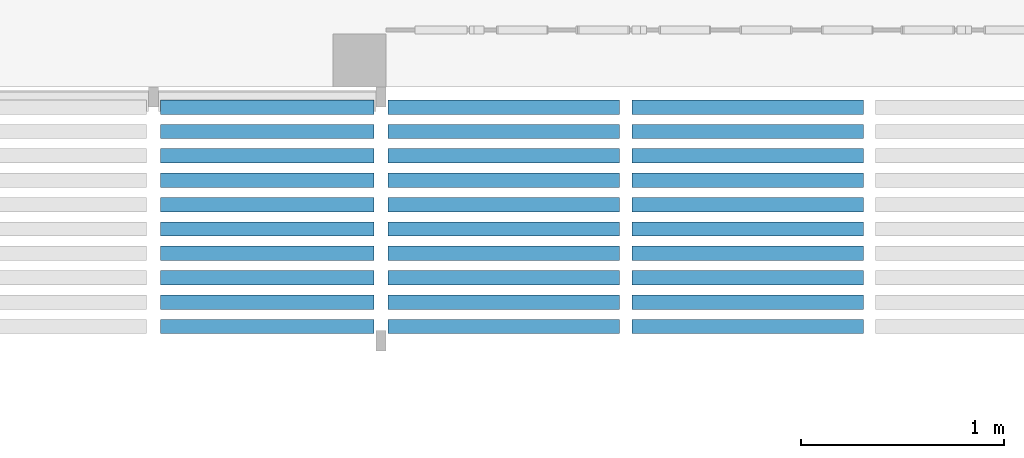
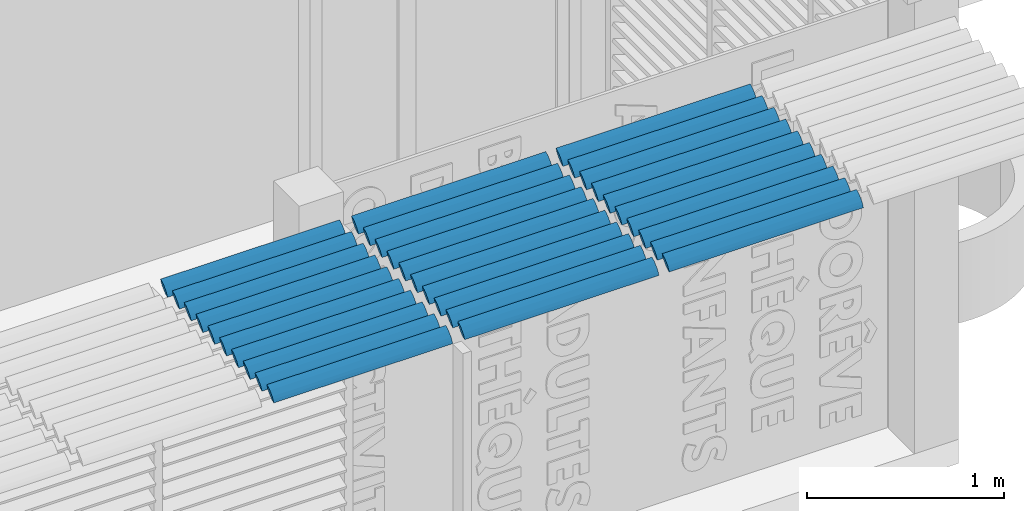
# One storey, part 34 of 64: 3 discrete accessories.
"""IFC2X3 building model written with IfcOpenShell, lengths in metres."""

from ifc_helpers import new_model, entity, si_unit, converted_unit, derived_unit, direction, frame, origin, place, context, subcontext, project, spatial, polyline, outline, extrude, source, transform, mapped, material, type_object, type_shapes, element, save


model = new_model("IFC2X3")

# Units and contexts
model_context = context("Model", 3, precision=1e-05, world=origin(), true_north=direction((6.123031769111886e-17, 1.0)))
body_context = subcontext(model_context, "Body", "Model", "MODEL_VIEW")
ifc_project = project(units=[si_unit("LENGTHUNIT", "METRE"), si_unit("AREAUNIT", "SQUARE_METRE"), si_unit("VOLUMEUNIT", "CUBIC_METRE"), converted_unit("PLANEANGLEUNIT", "DEGREE", entity("IfcRatioMeasure", 0.017453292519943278), si_unit("PLANEANGLEUNIT", "RADIAN"), dimensions=[0, 0, 0, 0, 0, 0, 0]), si_unit("MASSUNIT", "GRAM", prefix="KILO"), derived_unit("MASSDENSITYUNIT", [(si_unit("MASSUNIT", "GRAM", prefix="KILO"), 1), (si_unit("LENGTHUNIT", "METRE"), -3)]), derived_unit("MOMENTOFINERTIAUNIT", [(si_unit("LENGTHUNIT", "METRE"), 4)]), si_unit("TIMEUNIT", "SECOND"), si_unit("FREQUENCYUNIT", "HERTZ"), si_unit("THERMODYNAMICTEMPERATUREUNIT", "DEGREE_CELSIUS"), derived_unit("THERMALTRANSMITTANCEUNIT", [(si_unit("MASSUNIT", "GRAM", prefix="KILO"), 1), (si_unit("THERMODYNAMICTEMPERATUREUNIT", "KELVIN"), -1), (si_unit("TIMEUNIT", "SECOND"), -3)]), derived_unit("THERMALCONDUCTANCEUNIT", [(si_unit("MASSUNIT", "GRAM", prefix="KILO"), 1), (si_unit("LENGTHUNIT", "METRE"), 1), (si_unit("THERMODYNAMICTEMPERATUREUNIT", "KELVIN"), -1), (si_unit("TIMEUNIT", "SECOND"), -3)]), derived_unit("VOLUMETRICFLOWRATEUNIT", [(si_unit("LENGTHUNIT", "METRE"), 3), (si_unit("TIMEUNIT", "SECOND"), -1)]), derived_unit("MASSFLOWRATEUNIT", [(si_unit("MASSUNIT", "GRAM", prefix="KILO"), 1), (si_unit("TIMEUNIT", "SECOND"), -1)]), derived_unit("ROTATIONALFREQUENCYUNIT", [(si_unit("TIMEUNIT", "SECOND"), -1)]), si_unit("ELECTRICCURRENTUNIT", "AMPERE"), si_unit("ELECTRICVOLTAGEUNIT", "VOLT"), si_unit("POWERUNIT", "WATT"), si_unit("FORCEUNIT", "NEWTON", prefix="KILO"), si_unit("ILLUMINANCEUNIT", "LUX"), si_unit("LUMINOUSFLUXUNIT", "LUMEN"), si_unit("LUMINOUSINTENSITYUNIT", "CANDELA"), derived_unit("USERDEFINED", [(si_unit("MASSUNIT", "GRAM", prefix="KILO"), -1), (si_unit("LENGTHUNIT", "METRE"), -2), (si_unit("TIMEUNIT", "SECOND"), 3), (si_unit("LUMINOUSFLUXUNIT", "LUMEN"), 1)]), derived_unit("USERDEFINED", [(si_unit("MASSUNIT", "GRAM", prefix="KILO"), 1), (si_unit("LENGTHUNIT", "METRE"), 3), (si_unit("TIMEUNIT", "SECOND"), -3), (si_unit("ELECTRICCURRENTUNIT", "AMPERE"), -2)]), derived_unit("USERDEFINED", [(si_unit("LENGTHUNIT", "METRE"), 2), (si_unit("TIMEUNIT", "SECOND"), -2)]), derived_unit("SOUNDPOWERUNIT", [(si_unit("MASSUNIT", "GRAM", prefix="KILO"), 1), (si_unit("LENGTHUNIT", "METRE"), 2), (si_unit("TIMEUNIT", "SECOND"), -3)]), derived_unit("SOUNDPRESSUREUNIT", [(si_unit("MASSUNIT", "GRAM", prefix="KILO"), 1), (si_unit("LENGTHUNIT", "METRE"), -1), (si_unit("TIMEUNIT", "SECOND"), -2)]), derived_unit("LINEARVELOCITYUNIT", [(si_unit("LENGTHUNIT", "METRE"), 1), (si_unit("TIMEUNIT", "SECOND"), -1)]), si_unit("PRESSUREUNIT", "PASCAL"), derived_unit("USERDEFINED", [(si_unit("LENGTHUNIT", "METRE"), -2), (si_unit("MASSUNIT", "GRAM", prefix="KILO"), 1), (si_unit("TIMEUNIT", "SECOND"), -2)]), derived_unit("LINEARFORCEUNIT", [(si_unit("MASSUNIT", "GRAM", prefix="KILO"), 1), (si_unit("LENGTHUNIT", "METRE"), 1), (si_unit("TIMEUNIT", "SECOND"), -2), (si_unit("LENGTHUNIT", "METRE"), -1)]), derived_unit("PLANARFORCEUNIT", [(si_unit("MASSUNIT", "GRAM", prefix="KILO"), 1), (si_unit("LENGTHUNIT", "METRE"), 1), (si_unit("TIMEUNIT", "SECOND"), -2), (si_unit("LENGTHUNIT", "METRE"), -2)]), derived_unit("SPECIFICHEATCAPACITYUNIT", [(si_unit("LENGTHUNIT", "METRE"), 2), (si_unit("TIMEUNIT", "SECOND"), -2), (si_unit("THERMODYNAMICTEMPERATUREUNIT", "KELVIN"), -1)]), derived_unit("VAPORPERMEABILITYUNIT", [(si_unit("TIMEUNIT", "SECOND"), 1), (si_unit("LENGTHUNIT", "METRE"), -1)]), derived_unit("DYNAMICVISCOSITYUNIT", [(si_unit("MASSUNIT", "GRAM", prefix="KILO"), 1), (si_unit("LENGTHUNIT", "METRE"), -1), (si_unit("TIMEUNIT", "SECOND"), -1)]), derived_unit("THERMALEXPANSIONCOEFFICIENTUNIT", [(si_unit("THERMODYNAMICTEMPERATUREUNIT", "KELVIN"), -1)])], contexts=[model_context])

# Site, building, storey
site_placement = place(None, origin())
site = spatial("IfcSite", under=ifc_project, at=site_placement, Name="Default", CompositionType="ELEMENT")
building_placement = place(site_placement, origin())
building = spatial("IfcBuilding", under=site, at=building_placement, CompositionType="ELEMENT")
storey_placement = place(building_placement, origin())
storey = spatial("IfcBuildingStorey", under=building, at=storey_placement, Name="REZ-DE-CHAUSSÉE", CompositionType="ELEMENT", Elevation=0.0)

# Discrete accessories
ifc_material = material(Name="Bois - Chêne clair")
discrete_accessory_type_1 = type_object("IfcDiscreteAccessoryType", Name="Symb-0003", material=ifc_material)
shared_shape_1 = source(origin(), body_context, "Body", "SweptSolid", [
    extrude(outline(polyline([(-0.046423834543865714, -0.018569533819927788), (-0.028473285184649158, -0.0185695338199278), (-0.01176070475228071, -0.01547461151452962), (0.019188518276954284, -0.0030949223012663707), (0.033425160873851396, 0.00618984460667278), (0.04642383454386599, 0.01856953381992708), (0.028473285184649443, 0.018569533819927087), (0.011760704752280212, 0.015474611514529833), (-0.019188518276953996, 0.0030949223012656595), (-0.0334251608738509, -0.006189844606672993), (-0.046423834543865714, -0.018569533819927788)])), frame((122.18074673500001, 4.0672094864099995, 2.6500000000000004), z_axis=(1.0, 0.0, 0.0), x_axis=(0.0, 0.9191450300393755, 0.3939192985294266)), (0.0, 0.0, 1.0), 1.139999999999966),
    extrude(outline(polyline([(-0.04642383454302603, -0.018569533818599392), (-0.02847328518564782, -0.018569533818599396), (-0.011760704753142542, -0.015474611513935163), (0.019188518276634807, -0.0030949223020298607), (0.03342516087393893, 0.0061898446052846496), (0.04642383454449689, 0.018569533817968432), (0.028473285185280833, 0.018569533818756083), (0.011760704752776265, 0.015474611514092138), (-0.019188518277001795, 0.0030949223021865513), (-0.033425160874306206, -0.0061898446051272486), (-0.04642383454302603, -0.018569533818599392)])), frame((122.18074673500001, 3.947209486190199, 2.6500000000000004), z_axis=(1.0, 0.0, 0.0), x_axis=(0.0, 0.9191450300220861, 0.39391929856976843)), (0.0, 0.0, 1.0), 1.1399999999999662),
    extrude(outline(polyline([(-0.04642383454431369, -0.01856953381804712), (-0.028473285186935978, -0.01856953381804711), (-0.011760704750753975, -0.015474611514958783), (0.019188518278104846, -0.003094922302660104), (0.033425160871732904, 0.00618984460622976), (0.046423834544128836, 0.018569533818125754), (0.02847328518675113, 0.01856953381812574), (0.011760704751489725, 0.015474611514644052), (-0.01918851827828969, 0.0030949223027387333), (-0.033425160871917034, -0.006189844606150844), (-0.04642383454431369, -0.01856953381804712)])), frame((122.18074673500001, 3.8272094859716, 2.6500000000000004), z_axis=(1.0, 0.0, 0.0), x_axis=(0.0, 0.9191450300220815, 0.3939192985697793)), (0.0, 0.0, 1.0), 1.1399999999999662),
    extrude(outline(polyline([(-0.04642383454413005, -0.01856953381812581), (-0.028473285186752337, -0.0185695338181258), (-0.01176070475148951, -0.01547461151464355), (0.01918851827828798, -0.0030949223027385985), (0.03342516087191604, 0.006189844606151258), (0.04642383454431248, 0.018569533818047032), (0.028473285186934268, 0.01856953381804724), (0.011760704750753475, 0.015474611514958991), (-0.019188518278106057, 0.0030949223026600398), (-0.033425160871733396, -0.006189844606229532), (-0.04642383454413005, -0.01856953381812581)])), frame((122.18074673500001, 3.7072094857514, 2.6500000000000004), z_axis=(1.0, 0.0, 0.0), x_axis=(0.0, 0.9191450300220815, 0.3939192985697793)), (0.0, 0.0, 1.0), 1.1399999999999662),
    extrude(outline(polyline([(-0.04642383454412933, -0.018569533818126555), (-0.028473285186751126, -0.018569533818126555), (-0.01176070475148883, -0.015474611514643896), (0.019188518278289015, -0.0030949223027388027), (0.033425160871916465, 0.006189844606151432), (0.04642383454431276, 0.018569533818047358), (0.02847328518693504, 0.018569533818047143), (0.011760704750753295, 0.015474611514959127), (-0.019188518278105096, 0.003094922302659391), (-0.03342516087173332, -0.00618984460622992), (-0.04642383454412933, -0.018569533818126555)])), frame((122.18074673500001, 3.5872094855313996, 2.6500000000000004), z_axis=(1.0, 0.0, 0.0), x_axis=(0.0, 0.9191450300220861, 0.39391929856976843)), (0.0, 0.0, 1.0), 1.1399999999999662),
    extrude(outline(polyline([(-0.046423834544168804, -0.018569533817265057), (-0.02847328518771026, -0.018569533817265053), (-0.011760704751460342, -0.015474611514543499), (0.019188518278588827, -0.003094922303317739), (0.03342516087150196, 0.006189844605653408), (0.04642383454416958, 0.01856953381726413), (0.02847328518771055, 0.018569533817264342), (0.01176070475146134, 0.01547461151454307), (-0.019188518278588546, 0.0030949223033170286), (-0.03342516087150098, -0.006189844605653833), (-0.046423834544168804, -0.018569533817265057)])), frame((122.18074673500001, 3.4672094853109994, 2.6500000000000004), z_axis=(1.0, 0.0, 0.0), x_axis=(0.0, 0.9191450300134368, 0.3939192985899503)), (0.0, 0.0, 1.0), 1.139999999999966),
    extrude(outline(polyline([(-0.046423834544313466, -0.018569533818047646), (-0.028473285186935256, -0.018569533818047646), (-0.011760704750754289, -0.015474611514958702), (0.019188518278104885, -0.003094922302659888), (0.03342516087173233, 0.006189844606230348), (0.04642383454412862, 0.018569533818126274), (0.028473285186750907, 0.01856953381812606), (0.01176070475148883, 0.015474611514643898), (-0.01918851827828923, 0.0030949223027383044), (-0.03342516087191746, -0.006189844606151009), (-0.046423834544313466, -0.018569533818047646)])), frame((122.18074673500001, 3.3472094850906, 2.6500000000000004), z_axis=(1.0, 0.0, 0.0), x_axis=(0.0, 0.9191450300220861, 0.39391929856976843)), (0.0, 0.0, 1.0), 1.1399999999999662),
    extrude(outline(polyline([(-0.04642383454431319, -0.018569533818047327), (-0.02847328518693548, -0.018569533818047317), (-0.011760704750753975, -0.015474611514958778), (0.019188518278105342, -0.0030949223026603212), (0.033425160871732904, 0.006189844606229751), (0.046423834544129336, 0.01856953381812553), (0.02847328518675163, 0.018569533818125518), (0.011760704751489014, 0.015474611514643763), (-0.019188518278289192, 0.0030949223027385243), (-0.033425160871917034, -0.006189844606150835), (-0.04642383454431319, -0.018569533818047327)])), frame((122.18074673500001, 3.2272094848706, 2.6500000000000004), z_axis=(1.0, 0.0, 0.0), x_axis=(0.0, 0.9191450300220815, 0.3939192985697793)), (0.0, 0.0, 1.0), 1.1399999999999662),
    extrude(outline(polyline([(-0.04642383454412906, -0.018569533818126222), (-0.028473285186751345, -0.01856953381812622), (-0.011760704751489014, -0.015474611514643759), (0.01918851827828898, -0.00309492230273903), (0.033425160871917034, 0.006189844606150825), (0.046423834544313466, 0.018569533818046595), (0.028473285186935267, 0.018569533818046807), (0.011760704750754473, 0.015474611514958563), (-0.019188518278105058, 0.003094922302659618), (-0.033425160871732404, -0.006189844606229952), (-0.04642383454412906, -0.018569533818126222)])), frame((122.18074673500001, 3.1072094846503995, 2.6500000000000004), z_axis=(1.0, 0.0, 0.0), x_axis=(0.0, 0.9191450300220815, 0.3939192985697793)), (0.0, 0.0, 1.0), 1.1399999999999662),
    extrude(outline(polyline([(-0.04642383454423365, -0.01856953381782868), (-0.028473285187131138, -0.01856953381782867), (-0.011760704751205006, -0.015474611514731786), (0.01918851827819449, -0.003094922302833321), (0.03342516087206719, 0.0061898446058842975), (0.046423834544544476, 0.01856953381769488), (0.028473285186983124, 0.018569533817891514), (0.011760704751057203, 0.01547461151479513), (-0.01918851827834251, 0.0030949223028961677), (-0.033425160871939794, -0.006189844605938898), (-0.04642383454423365, -0.01856953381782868)])), frame((122.18074673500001, 2.9872094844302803, 2.6500000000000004), z_axis=(1.0, 0.0, 0.0), x_axis=(0.0, 0.9191450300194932, 0.3939192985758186)), (0.0, 0.0, 1.0), 1.1399999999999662),
])
type_shapes(discrete_accessory_type_1, [shared_shape_1])
discrete_accessory_1_placement = place(storey_placement, origin())
element("IfcDiscreteAccessory", 1, at=discrete_accessory_1_placement, inside=storey, type_object=discrete_accessory_type_1, material=ifc_material, Name="Symb-0003 451911:Symb-0003 451911", ObjectType="Symb-0003 451911:Symb-0003 451911", context=body_context, shape_type="MappedRepresentation", body=[
    mapped(shared_shape_1, transform((0.0, 0.0, 0.0), scale=1.0)),
])
discrete_accessory_type_2 = type_object("IfcDiscreteAccessoryType", Name="Symb-0003", material=ifc_material)
shared_shape_2 = source(origin(), body_context, "Body", "SweptSolid", [
    extrude(outline(polyline([(-0.046423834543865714, -0.018569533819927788), (-0.028473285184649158, -0.0185695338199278), (-0.01176070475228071, -0.01547461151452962), (0.019188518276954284, -0.0030949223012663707), (0.033425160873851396, 0.00618984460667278), (0.04642383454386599, 0.01856953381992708), (0.028473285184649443, 0.018569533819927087), (0.011760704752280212, 0.015474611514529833), (-0.019188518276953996, 0.0030949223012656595), (-0.0334251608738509, -0.006189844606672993), (-0.046423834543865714, -0.018569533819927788)])), frame((120.98074673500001, 4.0672094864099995, 2.6500000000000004), z_axis=(1.0, 0.0, 0.0), x_axis=(0.0, 0.9191450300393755, 0.3939192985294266)), (0.0, 0.0, 1.0), 1.1399999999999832),
    extrude(outline(polyline([(-0.04642383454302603, -0.018569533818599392), (-0.02847328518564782, -0.018569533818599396), (-0.011760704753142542, -0.015474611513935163), (0.019188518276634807, -0.0030949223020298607), (0.03342516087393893, 0.0061898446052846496), (0.04642383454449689, 0.018569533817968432), (0.028473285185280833, 0.018569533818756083), (0.011760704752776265, 0.015474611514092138), (-0.019188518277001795, 0.0030949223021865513), (-0.033425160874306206, -0.0061898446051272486), (-0.04642383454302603, -0.018569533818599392)])), frame((120.98074673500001, 3.947209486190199, 2.6500000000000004), z_axis=(1.0, 0.0, 0.0), x_axis=(0.0, 0.9191450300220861, 0.39391929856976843)), (0.0, 0.0, 1.0), 1.1399999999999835),
    extrude(outline(polyline([(-0.04642383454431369, -0.01856953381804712), (-0.028473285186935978, -0.01856953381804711), (-0.011760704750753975, -0.015474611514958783), (0.019188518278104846, -0.003094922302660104), (0.033425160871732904, 0.00618984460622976), (0.046423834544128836, 0.018569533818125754), (0.02847328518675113, 0.01856953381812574), (0.011760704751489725, 0.015474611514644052), (-0.01918851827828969, 0.0030949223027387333), (-0.033425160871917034, -0.006189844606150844), (-0.04642383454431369, -0.01856953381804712)])), frame((120.98074673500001, 3.8272094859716, 2.6500000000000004), z_axis=(1.0, 0.0, 0.0), x_axis=(0.0, 0.9191450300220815, 0.3939192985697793)), (0.0, 0.0, 1.0), 1.1399999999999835),
    extrude(outline(polyline([(-0.04642383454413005, -0.01856953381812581), (-0.028473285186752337, -0.0185695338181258), (-0.01176070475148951, -0.01547461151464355), (0.01918851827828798, -0.0030949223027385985), (0.03342516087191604, 0.006189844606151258), (0.04642383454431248, 0.018569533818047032), (0.028473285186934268, 0.01856953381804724), (0.011760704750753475, 0.015474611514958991), (-0.019188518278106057, 0.0030949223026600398), (-0.033425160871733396, -0.006189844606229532), (-0.04642383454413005, -0.01856953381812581)])), frame((120.98074673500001, 3.7072094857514, 2.6500000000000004), z_axis=(1.0, 0.0, 0.0), x_axis=(0.0, 0.9191450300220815, 0.3939192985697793)), (0.0, 0.0, 1.0), 1.1399999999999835),
    extrude(outline(polyline([(-0.04642383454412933, -0.018569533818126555), (-0.028473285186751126, -0.018569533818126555), (-0.01176070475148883, -0.015474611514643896), (0.019188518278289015, -0.0030949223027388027), (0.033425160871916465, 0.006189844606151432), (0.04642383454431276, 0.018569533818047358), (0.02847328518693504, 0.018569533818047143), (0.011760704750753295, 0.015474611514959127), (-0.019188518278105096, 0.003094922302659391), (-0.03342516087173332, -0.00618984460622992), (-0.04642383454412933, -0.018569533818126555)])), frame((120.98074673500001, 3.5872094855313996, 2.6500000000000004), z_axis=(1.0, 0.0, 0.0), x_axis=(0.0, 0.9191450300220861, 0.39391929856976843)), (0.0, 0.0, 1.0), 1.1399999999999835),
    extrude(outline(polyline([(-0.046423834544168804, -0.018569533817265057), (-0.02847328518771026, -0.018569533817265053), (-0.011760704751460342, -0.015474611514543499), (0.019188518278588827, -0.003094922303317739), (0.03342516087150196, 0.006189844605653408), (0.04642383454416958, 0.01856953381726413), (0.02847328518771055, 0.018569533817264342), (0.01176070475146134, 0.01547461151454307), (-0.019188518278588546, 0.0030949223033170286), (-0.03342516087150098, -0.006189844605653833), (-0.046423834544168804, -0.018569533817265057)])), frame((120.98074673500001, 3.4672094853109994, 2.6500000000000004), z_axis=(1.0, 0.0, 0.0), x_axis=(0.0, 0.9191450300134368, 0.3939192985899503)), (0.0, 0.0, 1.0), 1.1399999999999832),
    extrude(outline(polyline([(-0.046423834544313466, -0.018569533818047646), (-0.028473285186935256, -0.018569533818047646), (-0.011760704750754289, -0.015474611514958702), (0.019188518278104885, -0.003094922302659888), (0.03342516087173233, 0.006189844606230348), (0.04642383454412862, 0.018569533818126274), (0.028473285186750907, 0.01856953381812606), (0.01176070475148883, 0.015474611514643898), (-0.01918851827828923, 0.0030949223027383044), (-0.03342516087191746, -0.006189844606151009), (-0.046423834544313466, -0.018569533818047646)])), frame((120.98074673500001, 3.3472094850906, 2.6500000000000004), z_axis=(1.0, 0.0, 0.0), x_axis=(0.0, 0.9191450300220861, 0.39391929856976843)), (0.0, 0.0, 1.0), 1.1399999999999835),
    extrude(outline(polyline([(-0.04642383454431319, -0.018569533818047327), (-0.02847328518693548, -0.018569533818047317), (-0.011760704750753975, -0.015474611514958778), (0.019188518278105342, -0.0030949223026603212), (0.033425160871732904, 0.006189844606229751), (0.046423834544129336, 0.01856953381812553), (0.02847328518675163, 0.018569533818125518), (0.011760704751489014, 0.015474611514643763), (-0.019188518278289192, 0.0030949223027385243), (-0.033425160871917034, -0.006189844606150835), (-0.04642383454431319, -0.018569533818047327)])), frame((120.98074673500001, 3.2272094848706, 2.6500000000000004), z_axis=(1.0, 0.0, 0.0), x_axis=(0.0, 0.9191450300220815, 0.3939192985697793)), (0.0, 0.0, 1.0), 1.1399999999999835),
    extrude(outline(polyline([(-0.04642383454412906, -0.018569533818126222), (-0.028473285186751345, -0.01856953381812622), (-0.011760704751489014, -0.015474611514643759), (0.01918851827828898, -0.00309492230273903), (0.033425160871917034, 0.006189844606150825), (0.046423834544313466, 0.018569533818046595), (0.028473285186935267, 0.018569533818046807), (0.011760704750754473, 0.015474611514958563), (-0.019188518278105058, 0.003094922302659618), (-0.033425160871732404, -0.006189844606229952), (-0.04642383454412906, -0.018569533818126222)])), frame((120.98074673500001, 3.1072094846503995, 2.6500000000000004), z_axis=(1.0, 0.0, 0.0), x_axis=(0.0, 0.9191450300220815, 0.3939192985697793)), (0.0, 0.0, 1.0), 1.1399999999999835),
    extrude(outline(polyline([(-0.04642383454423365, -0.01856953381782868), (-0.028473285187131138, -0.01856953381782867), (-0.011760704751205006, -0.015474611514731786), (0.01918851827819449, -0.003094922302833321), (0.03342516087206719, 0.0061898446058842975), (0.046423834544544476, 0.01856953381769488), (0.028473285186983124, 0.018569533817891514), (0.011760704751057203, 0.01547461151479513), (-0.01918851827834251, 0.0030949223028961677), (-0.033425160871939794, -0.006189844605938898), (-0.04642383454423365, -0.01856953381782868)])), frame((120.98074673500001, 2.9872094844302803, 2.6500000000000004), z_axis=(1.0, 0.0, 0.0), x_axis=(0.0, 0.9191450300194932, 0.3939192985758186)), (0.0, 0.0, 1.0), 1.1399999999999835),
])
type_shapes(discrete_accessory_type_2, [shared_shape_2])
discrete_accessory_2_placement = place(storey_placement, origin())
element("IfcDiscreteAccessory", 2, at=discrete_accessory_2_placement, inside=storey, type_object=discrete_accessory_type_2, material=ifc_material, Name="Symb-0003 451941:Symb-0003 451941", ObjectType="Symb-0003 451941:Symb-0003 451941", context=body_context, shape_type="MappedRepresentation", body=[
    mapped(shared_shape_2, transform((0.0, 0.0, 0.0), scale=1.0)),
])
discrete_accessory_type_3 = type_object("IfcDiscreteAccessoryType", Name="Symb-0003", material=ifc_material)
shared_shape_3 = source(origin(), body_context, "Body", "SweptSolid", [
    extrude(outline(polyline([(-0.046423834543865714, -0.018569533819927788), (-0.028473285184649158, -0.0185695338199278), (-0.01176070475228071, -0.01547461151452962), (0.019188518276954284, -0.0030949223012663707), (0.033425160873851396, 0.00618984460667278), (0.04642383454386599, 0.01856953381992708), (0.028473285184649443, 0.018569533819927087), (0.011760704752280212, 0.015474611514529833), (-0.019188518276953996, 0.0030949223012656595), (-0.0334251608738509, -0.006189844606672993), (-0.046423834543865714, -0.018569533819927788)])), frame((119.860746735, 4.0672094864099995, 2.6500000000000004), z_axis=(1.0, 0.0, 0.0), x_axis=(0.0, 0.9191450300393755, 0.3939192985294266)), (0.0, 0.0, 1.0), 1.0499999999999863),
    extrude(outline(polyline([(-0.04642383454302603, -0.018569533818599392), (-0.02847328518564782, -0.018569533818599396), (-0.011760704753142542, -0.015474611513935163), (0.019188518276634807, -0.0030949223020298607), (0.03342516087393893, 0.0061898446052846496), (0.04642383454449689, 0.018569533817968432), (0.028473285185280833, 0.018569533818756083), (0.011760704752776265, 0.015474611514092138), (-0.019188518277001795, 0.0030949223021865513), (-0.033425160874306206, -0.0061898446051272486), (-0.04642383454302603, -0.018569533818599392)])), frame((119.860746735, 3.947209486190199, 2.6500000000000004), z_axis=(1.0, 0.0, 0.0), x_axis=(0.0, 0.9191450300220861, 0.39391929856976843)), (0.0, 0.0, 1.0), 1.0499999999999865),
    extrude(outline(polyline([(-0.04642383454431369, -0.01856953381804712), (-0.028473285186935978, -0.01856953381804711), (-0.011760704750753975, -0.015474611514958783), (0.019188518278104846, -0.003094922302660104), (0.033425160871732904, 0.00618984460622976), (0.046423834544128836, 0.018569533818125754), (0.02847328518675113, 0.01856953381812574), (0.011760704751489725, 0.015474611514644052), (-0.01918851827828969, 0.0030949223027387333), (-0.033425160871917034, -0.006189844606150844), (-0.04642383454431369, -0.01856953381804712)])), frame((119.860746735, 3.8272094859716, 2.6500000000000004), z_axis=(1.0, 0.0, 0.0), x_axis=(0.0, 0.9191450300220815, 0.3939192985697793)), (0.0, 0.0, 1.0), 1.0499999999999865),
    extrude(outline(polyline([(-0.04642383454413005, -0.01856953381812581), (-0.028473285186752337, -0.0185695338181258), (-0.01176070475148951, -0.01547461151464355), (0.01918851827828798, -0.0030949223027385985), (0.03342516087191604, 0.006189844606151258), (0.04642383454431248, 0.018569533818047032), (0.028473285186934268, 0.01856953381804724), (0.011760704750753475, 0.015474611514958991), (-0.019188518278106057, 0.0030949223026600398), (-0.033425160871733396, -0.006189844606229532), (-0.04642383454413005, -0.01856953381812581)])), frame((119.860746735, 3.7072094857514, 2.6500000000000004), z_axis=(1.0, 0.0, 0.0), x_axis=(0.0, 0.9191450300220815, 0.3939192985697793)), (0.0, 0.0, 1.0), 1.0499999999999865),
    extrude(outline(polyline([(-0.04642383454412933, -0.018569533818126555), (-0.028473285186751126, -0.018569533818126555), (-0.01176070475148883, -0.015474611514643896), (0.019188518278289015, -0.0030949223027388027), (0.033425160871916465, 0.006189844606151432), (0.04642383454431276, 0.018569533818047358), (0.02847328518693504, 0.018569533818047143), (0.011760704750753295, 0.015474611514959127), (-0.019188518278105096, 0.003094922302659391), (-0.03342516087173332, -0.00618984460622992), (-0.04642383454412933, -0.018569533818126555)])), frame((119.860746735, 3.5872094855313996, 2.6500000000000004), z_axis=(1.0, 0.0, 0.0), x_axis=(0.0, 0.9191450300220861, 0.39391929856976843)), (0.0, 0.0, 1.0), 1.0499999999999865),
    extrude(outline(polyline([(-0.046423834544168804, -0.018569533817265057), (-0.02847328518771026, -0.018569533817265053), (-0.011760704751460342, -0.015474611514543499), (0.019188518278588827, -0.003094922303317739), (0.03342516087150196, 0.006189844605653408), (0.04642383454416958, 0.01856953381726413), (0.02847328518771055, 0.018569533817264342), (0.01176070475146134, 0.01547461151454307), (-0.019188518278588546, 0.0030949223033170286), (-0.03342516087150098, -0.006189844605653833), (-0.046423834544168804, -0.018569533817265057)])), frame((119.860746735, 3.4672094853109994, 2.6500000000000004), z_axis=(1.0, 0.0, 0.0), x_axis=(0.0, 0.9191450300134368, 0.3939192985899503)), (0.0, 0.0, 1.0), 1.0499999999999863),
    extrude(outline(polyline([(-0.046423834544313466, -0.018569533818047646), (-0.028473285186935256, -0.018569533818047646), (-0.011760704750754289, -0.015474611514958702), (0.019188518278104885, -0.003094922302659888), (0.03342516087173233, 0.006189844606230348), (0.04642383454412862, 0.018569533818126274), (0.028473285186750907, 0.01856953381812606), (0.01176070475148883, 0.015474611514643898), (-0.01918851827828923, 0.0030949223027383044), (-0.03342516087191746, -0.006189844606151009), (-0.046423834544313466, -0.018569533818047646)])), frame((119.860746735, 3.3472094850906, 2.6500000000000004), z_axis=(1.0, 0.0, 0.0), x_axis=(0.0, 0.9191450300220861, 0.39391929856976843)), (0.0, 0.0, 1.0), 1.0499999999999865),
    extrude(outline(polyline([(-0.04642383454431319, -0.018569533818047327), (-0.02847328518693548, -0.018569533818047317), (-0.011760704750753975, -0.015474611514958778), (0.019188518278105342, -0.0030949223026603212), (0.033425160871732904, 0.006189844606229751), (0.046423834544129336, 0.01856953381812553), (0.02847328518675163, 0.018569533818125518), (0.011760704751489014, 0.015474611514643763), (-0.019188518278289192, 0.0030949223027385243), (-0.033425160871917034, -0.006189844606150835), (-0.04642383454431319, -0.018569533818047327)])), frame((119.860746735, 3.2272094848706, 2.6500000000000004), z_axis=(1.0, 0.0, 0.0), x_axis=(0.0, 0.9191450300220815, 0.3939192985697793)), (0.0, 0.0, 1.0), 1.0499999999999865),
    extrude(outline(polyline([(-0.04642383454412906, -0.018569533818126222), (-0.028473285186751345, -0.01856953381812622), (-0.011760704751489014, -0.015474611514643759), (0.01918851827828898, -0.00309492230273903), (0.033425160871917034, 0.006189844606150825), (0.046423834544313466, 0.018569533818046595), (0.028473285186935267, 0.018569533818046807), (0.011760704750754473, 0.015474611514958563), (-0.019188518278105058, 0.003094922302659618), (-0.033425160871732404, -0.006189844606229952), (-0.04642383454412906, -0.018569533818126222)])), frame((119.860746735, 3.1072094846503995, 2.6500000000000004), z_axis=(1.0, 0.0, 0.0), x_axis=(0.0, 0.9191450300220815, 0.3939192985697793)), (0.0, 0.0, 1.0), 1.0499999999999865),
    extrude(outline(polyline([(-0.04642383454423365, -0.01856953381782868), (-0.028473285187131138, -0.01856953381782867), (-0.011760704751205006, -0.015474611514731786), (0.01918851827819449, -0.003094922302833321), (0.03342516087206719, 0.0061898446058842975), (0.046423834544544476, 0.01856953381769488), (0.028473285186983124, 0.018569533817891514), (0.011760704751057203, 0.01547461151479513), (-0.01918851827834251, 0.0030949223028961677), (-0.033425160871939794, -0.006189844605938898), (-0.04642383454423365, -0.01856953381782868)])), frame((119.860746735, 2.9872094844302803, 2.6500000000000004), z_axis=(1.0, 0.0, 0.0), x_axis=(0.0, 0.9191450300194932, 0.3939192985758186)), (0.0, 0.0, 1.0), 1.0499999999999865),
])
type_shapes(discrete_accessory_type_3, [shared_shape_3])
discrete_accessory_3_placement = place(storey_placement, origin())
element("IfcDiscreteAccessory", 3, at=discrete_accessory_3_placement, inside=storey, type_object=discrete_accessory_type_3, material=ifc_material, Name="Symb-0003 453043:Symb-0003 453043", ObjectType="Symb-0003 453043:Symb-0003 453043", context=body_context, shape_type="MappedRepresentation", body=[
    mapped(shared_shape_3, transform((0.0, 0.0, 0.0), scale=1.0)),
])

save(model, "model.ifc")
